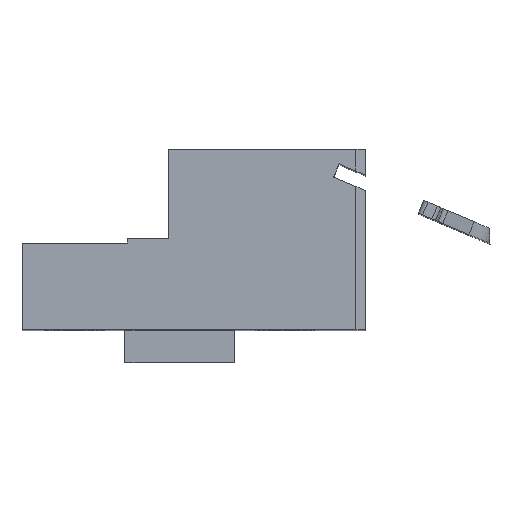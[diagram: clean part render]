
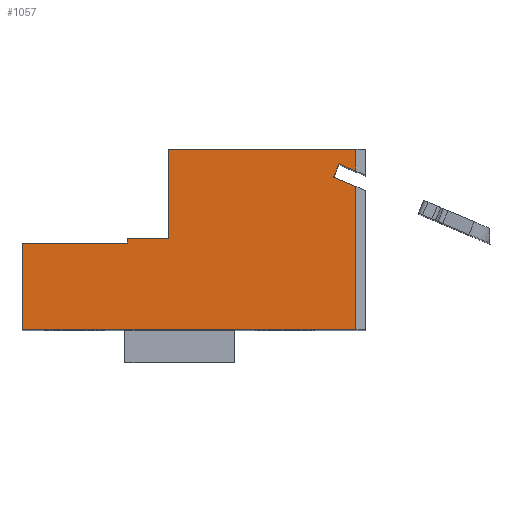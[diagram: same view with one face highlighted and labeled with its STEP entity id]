
A CAD part, top view. The second image highlights one B-rep face of the part: STEP entity #1057.
In plain terms, the highlighted planar face has unit normal (0, 0, 1).
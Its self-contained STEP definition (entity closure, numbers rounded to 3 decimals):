
#170 = DIRECTION ( 'NONE',  ( 0., -1., 0. ) ) ;
#171 = VECTOR ( 'NONE', #170, 1000. ) ;
#172 = CARTESIAN_POINT ( 'NONE',  ( -11.5, 26., 62.2 ) ) ;
#177 = LINE ( 'NONE', #172, #171 ) ;
#281 = CARTESIAN_POINT ( 'NONE',  ( 38.5, 7., 62.2 ) ) ;
#283 = CARTESIAN_POINT ( 'NONE',  ( -34.5, 7., 62.2 ) ) ;
#289 = LINE ( 'NONE', #283, #291 ) ;
#290 = DIRECTION ( 'NONE',  ( 1., 0., 0. ) ) ;
#291 = VECTOR ( 'NONE', #290, 1000. ) ;
#313 = CARTESIAN_POINT ( 'NONE',  ( -34.5, 26., 62.2 ) ) ;
#335 = DIRECTION ( 'NONE',  ( 0., -1., 0. ) ) ;
#336 = VECTOR ( 'NONE', #335, 1000. ) ;
#337 = CARTESIAN_POINT ( 'NONE',  ( -34.5, 26., 62.2 ) ) ;
#338 = LINE ( 'NONE', #337, #336 ) ;
#350 = CARTESIAN_POINT ( 'NONE',  ( -34.5, 7., 62.2 ) ) ;
#389 = DIRECTION ( 'NONE',  ( -1., 0., 0. ) ) ;
#392 = LINE ( 'NONE', #397, #396 ) ;
#396 = VECTOR ( 'NONE', #389, 1000. ) ;
#397 = CARTESIAN_POINT ( 'NONE',  ( -34.5, 26., 62.2 ) ) ;
#399 = FACE_OUTER_BOUND ( 'NONE', #1058, .T. ) ;
#400 = PLANE ( 'NONE',  #401 ) ;
#401 = AXIS2_PLACEMENT_3D ( 'NONE', #404, #403, #402 ) ;
#402 = DIRECTION ( 'NONE',  ( 1., 0., 0. ) ) ;
#403 = DIRECTION ( 'NONE',  ( 0., 0., 1. ) ) ;
#404 = CARTESIAN_POINT ( 'NONE',  ( -34.5, 0., 62.2 ) ) ;
#405 = CARTESIAN_POINT ( 'NONE',  ( 48.324, 37.547, 62.2 ) ) ;
#406 = LINE ( 'NONE', #405, #410 ) ;
#409 = DIRECTION ( 'NONE',  ( -0.921, 0.391, 0. ) ) ;
#410 = VECTOR ( 'NONE', #409, 1000. ) ;
#411 = CARTESIAN_POINT ( 'NONE',  ( 38.5, 38.349, 62.2 ) ) ;
#412 = DIRECTION ( 'NONE',  ( 0., 1., 0. ) ) ;
#418 = DIRECTION ( 'NONE',  ( 0.921, -0.391, 0. ) ) ;
#419 = VECTOR ( 'NONE', #418, 1000. ) ;
#420 = CARTESIAN_POINT ( 'NONE',  ( 33.596, 40.43, 62.2 ) ) ;
#422 = CARTESIAN_POINT ( 'NONE',  ( 33.596, 40.43, 62.2 ) ) ;
#423 = CARTESIAN_POINT ( 'NONE',  ( 38.5, 37.5, 62.2 ) ) ;
#424 = LINE ( 'NONE', #423, #454 ) ;
#434 = LINE ( 'NONE', #420, #419 ) ;
#453 = CARTESIAN_POINT ( 'NONE',  ( -2.5, 27., 62.2 ) ) ;
#454 = VECTOR ( 'NONE', #412, 1000. ) ;
#475 = CARTESIAN_POINT ( 'NONE',  ( -2.5, 46.5, 62.2 ) ) ;
#480 = DIRECTION ( 'NONE',  ( 0., -1., 0. ) ) ;
#481 = VECTOR ( 'NONE', #480, 1000. ) ;
#483 = CARTESIAN_POINT ( 'NONE',  ( -2.5, 46.5, 62.2 ) ) ;
#484 = LINE ( 'NONE', #483, #481 ) ;
#499 = LINE ( 'NONE', #503, #500 ) ;
#500 = VECTOR ( 'NONE', #502, 1000. ) ;
#501 = CARTESIAN_POINT ( 'NONE',  ( 38.5, 46.5, 62.2 ) ) ;
#502 = DIRECTION ( 'NONE',  ( -1., 0., 0. ) ) ;
#503 = CARTESIAN_POINT ( 'NONE',  ( 40.5, 46.5, 62.2 ) ) ;
#962 = EDGE_CURVE ( 'NONE', #1148, #1136, #177, .T. ) ;
#994 = VERTEX_POINT ( 'NONE', #281 ) ;
#999 = EDGE_CURVE ( 'NONE', #1033, #994, #289, .T. ) ;
#1019 = EDGE_CURVE ( 'NONE', #1020, #1033, #338, .T. ) ;
#1020 = VERTEX_POINT ( 'NONE', #313 ) ;
#1033 = VERTEX_POINT ( 'NONE', #350 ) ;
#1055 = EDGE_CURVE ( 'NONE', #1136, #1020, #392, .T. ) ;
#1057 = ADVANCED_FACE ( 'NONE', ( #399 ), #400, .T. ) ;
#1058 = EDGE_LOOP ( 'NONE', ( #1059, #1139, #1141, #1064, #1065, #1066, #1067, #1068, #1069, #1070, #1073, #1152 ) ) ;
#1059 = ORIENTED_EDGE ( 'NONE', *, *, #1060, .F. ) ;
#1060 = EDGE_CURVE ( 'NONE', #1137, #1138, #406, .T. ) ;
#1064 = ORIENTED_EDGE ( 'NONE', *, *, #1121, .T. ) ;
#1065 = ORIENTED_EDGE ( 'NONE', *, *, #1150, .T. ) ;
#1066 = ORIENTED_EDGE ( 'NONE', *, *, #962, .T. ) ;
#1067 = ORIENTED_EDGE ( 'NONE', *, *, #1055, .T. ) ;
#1068 = ORIENTED_EDGE ( 'NONE', *, *, #1019, .T. ) ;
#1069 = ORIENTED_EDGE ( 'NONE', *, *, #999, .T. ) ;
#1070 = ORIENTED_EDGE ( 'NONE', *, *, #1071, .T. ) ;
#1071 = EDGE_CURVE ( 'NONE', #994, #1072, #424, .T. ) ;
#1072 = VERTEX_POINT ( 'NONE', #411 ) ;
#1073 = ORIENTED_EDGE ( 'NONE', *, *, #1074, .F. ) ;
#1074 = EDGE_CURVE ( 'NONE', #1075, #1072, #434, .T. ) ;
#1075 = VERTEX_POINT ( 'NONE', #422 ) ;
#1079 = VERTEX_POINT ( 'NONE', #453 ) ;
#1120 = VERTEX_POINT ( 'NONE', #475 ) ;
#1121 = EDGE_CURVE ( 'NONE', #1120, #1079, #484, .T. ) ;
#1126 = EDGE_CURVE ( 'NONE', #1127, #1120, #499, .T. ) ;
#1127 = VERTEX_POINT ( 'NONE', #501 ) ;
#1136 = VERTEX_POINT ( 'NONE', #1915 ) ;
#1137 = VERTEX_POINT ( 'NONE', #1907 ) ;
#1138 = VERTEX_POINT ( 'NONE', #1908 ) ;
#1139 = ORIENTED_EDGE ( 'NONE', *, *, #1140, .T. ) ;
#1140 = EDGE_CURVE ( 'NONE', #1137, #1127, #1912, .T. ) ;
#1141 = ORIENTED_EDGE ( 'NONE', *, *, #1126, .T. ) ;
#1148 = VERTEX_POINT ( 'NONE', #1935 ) ;
#1150 = EDGE_CURVE ( 'NONE', #1079, #1148, #1933, .T. ) ;
#1152 = ORIENTED_EDGE ( 'NONE', *, *, #1153, .F. ) ;
#1153 = EDGE_CURVE ( 'NONE', #1138, #1075, #1883, .T. ) ;
#1883 = LINE ( 'NONE', #1884, #1886 ) ;
#1884 = CARTESIAN_POINT ( 'NONE',  ( 34.807, 43.284, 62.2 ) ) ;
#1885 = DIRECTION ( 'NONE',  ( -0.391, -0.921, 0. ) ) ;
#1886 = VECTOR ( 'NONE', #1885, 1000. ) ;
#1904 = DIRECTION ( 'NONE',  ( 0., 1., 0. ) ) ;
#1905 = VECTOR ( 'NONE', #1904, 1000. ) ;
#1906 = CARTESIAN_POINT ( 'NONE',  ( 38.5, 46.5, 62.2 ) ) ;
#1907 = CARTESIAN_POINT ( 'NONE',  ( 38.5, 41.717, 62.2 ) ) ;
#1908 = CARTESIAN_POINT ( 'NONE',  ( 34.807, 43.284, 62.2 ) ) ;
#1912 = LINE ( 'NONE', #1906, #1905 ) ;
#1915 = CARTESIAN_POINT ( 'NONE',  ( -11.5, 26., 62.2 ) ) ;
#1930 = DIRECTION ( 'NONE',  ( -1., 0., 0. ) ) ;
#1931 = VECTOR ( 'NONE', #1930, 1000. ) ;
#1932 = CARTESIAN_POINT ( 'NONE',  ( -2.5, 27., 62.2 ) ) ;
#1933 = LINE ( 'NONE', #1932, #1931 ) ;
#1935 = CARTESIAN_POINT ( 'NONE',  ( -11.5, 27., 62.2 ) ) ;
